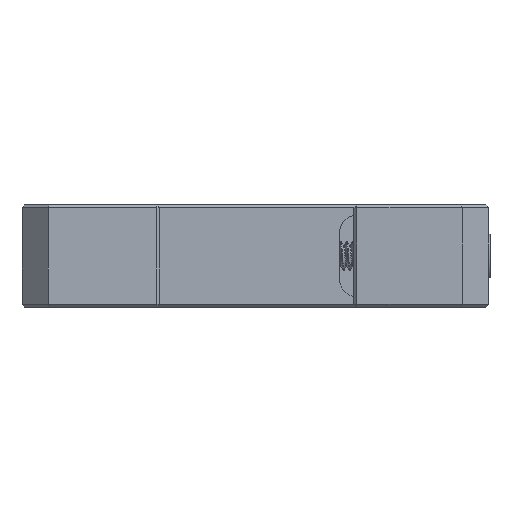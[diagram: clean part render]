
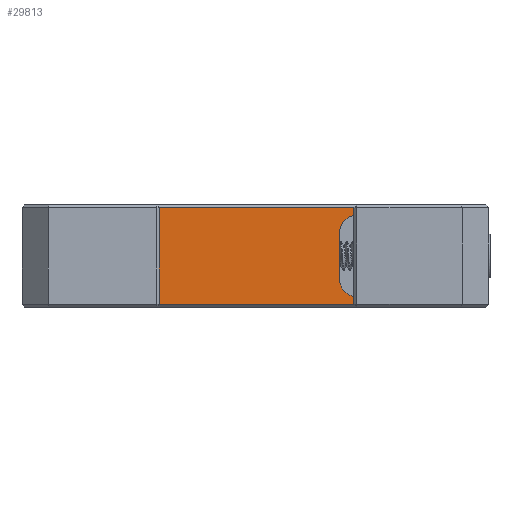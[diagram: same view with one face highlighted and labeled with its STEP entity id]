
A CAD part, front view. The second image highlights one B-rep face of the part: STEP entity #29813.
In plain terms, the highlighted planar face has unit normal (0, -1, 0).
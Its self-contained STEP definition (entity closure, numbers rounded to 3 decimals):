
#18741=DIRECTION('',(1.,0.,0.));
#18742=VECTOR('',#18741,29.845);
#18743=CARTESIAN_POINT('',(-23.973,-16.804,
16.128));
#18744=LINE('',#18743,#18742);
#18753=DIRECTION('',(0.,0.,1.));
#18754=VECTOR('',#18753,8.382);
#18755=CARTESIAN_POINT('',(-23.973,-16.804,
7.746));
#18756=LINE('',#18755,#18754);
#18757=DIRECTION('',(0.,0.,1.));
#18758=VECTOR('',#18757,1.842);
#18759=CARTESIAN_POINT('',(5.872,-16.804,
14.287));
#18760=LINE('',#18759,#18758);
#18761=CARTESIAN_POINT('',(-5.551,-16.804,
13.919));
#18762=DIRECTION('',(0.,1.,0.));
#18763=DIRECTION('',(0.,0.,1.));
#18764=AXIS2_PLACEMENT_3D('',#18761,#18762,#18763);
#18766=CARTESIAN_POINT('',(-5.551,-16.804,
13.919));
#18767=DIRECTION('',(0.,1.,0.));
#18768=DIRECTION('',(-1.,0.,0.));
#18769=AXIS2_PLACEMENT_3D('',#18766,#18767,#18768);
#18771=CARTESIAN_POINT('',(-5.551,-16.804,
9.956));
#18772=DIRECTION('',(0.,1.,0.));
#18773=DIRECTION('',(0.,0.,-1.));
#18774=AXIS2_PLACEMENT_3D('',#18771,#18772,#18773);
#18776=CARTESIAN_POINT('',(-5.551,-16.804,
9.956));
#18777=DIRECTION('',(0.,1.,0.));
#18778=DIRECTION('',(0.973,0.,-0.232));
#18779=AXIS2_PLACEMENT_3D('',#18776,#18777,#18778);
#18781=DIRECTION('',(-1.,0.,0.));
#18782=VECTOR('',#18781,9.879);
#18783=CARTESIAN_POINT('',(5.872,-16.804,
9.588));
#18784=LINE('',#18783,#18782);
#18785=DIRECTION('',(0.,0.,1.));
#18786=VECTOR('',#18785,1.842);
#18787=CARTESIAN_POINT('',(5.872,-16.804,
7.746));
#18788=LINE('',#18787,#18786);
#23192=DIRECTION('',(-1.,0.,0.));
#23193=VECTOR('',#23192,29.845);
#23194=CARTESIAN_POINT('',(5.872,-16.804,
7.746));
#23195=LINE('',#23194,#23193);
#25852=DIRECTION('',(0.,0.,-1.));
#25853=VECTOR('',#25852,3.962);
#25854=CARTESIAN_POINT('',(-7.138,-16.804,
13.919));
#25855=LINE('',#25854,#25853);
#25922=DIRECTION('',(-1.,0.,0.));
#25923=VECTOR('',#25922,9.879);
#25924=CARTESIAN_POINT('',(5.872,-16.804,
14.287));
#25925=LINE('',#25924,#25923);
#28729=CARTESIAN_POINT('',(-4.006,-16.804,
9.588));
#28730=CARTESIAN_POINT('',(-5.551,-16.804,
8.369));
#28731=VERTEX_POINT('',#28729);
#28732=VERTEX_POINT('',#28730);
#28757=CARTESIAN_POINT('',(-5.551,-16.804,
15.506));
#28758=CARTESIAN_POINT('',(-4.006,-16.804,
14.287));
#28759=VERTEX_POINT('',#28757);
#28760=VERTEX_POINT('',#28758);
#28761=CARTESIAN_POINT('',(-7.138,-16.804,
13.919));
#28762=VERTEX_POINT('',#28761);
#28823=CARTESIAN_POINT('',(5.872,-16.804,
7.746));
#28824=VERTEX_POINT('',#28823);
#28825=CARTESIAN_POINT('',(5.872,-16.804,
14.287));
#28827=VERTEX_POINT('',#28825);
#28829=CARTESIAN_POINT('',(-23.973,-16.804,
16.128));
#28830=VERTEX_POINT('',#28829);
#28835=CARTESIAN_POINT('',(-23.973,-16.804,
7.746));
#28837=VERTEX_POINT('',#28835);
#28859=CARTESIAN_POINT('',(-7.138,-16.804,
9.956));
#28860=VERTEX_POINT('',#28859);
#28861=CARTESIAN_POINT('',(5.872,-16.804,
16.128));
#28862=VERTEX_POINT('',#28861);
#28875=CARTESIAN_POINT('',(5.872,-16.804,
9.588));
#28876=VERTEX_POINT('',#28875);
#29784=CARTESIAN_POINT('',(-23.973,-16.804,
16.382));
#29785=DIRECTION('',(0.,1.,0.));
#29786=DIRECTION('',(0.,0.,1.));
#29787=AXIS2_PLACEMENT_3D('',#29784,#29785,#29786);
#29788=PLANE('',#29787);
#29790=ORIENTED_EDGE('',*,*,#29789,.F.);
#29792=ORIENTED_EDGE('',*,*,#29791,.T.);
#29794=ORIENTED_EDGE('',*,*,#29793,.F.);
#29796=ORIENTED_EDGE('',*,*,#29795,.F.);
#29798=ORIENTED_EDGE('',*,*,#29797,.T.);
#29800=ORIENTED_EDGE('',*,*,#29799,.F.);
#29802=ORIENTED_EDGE('',*,*,#29801,.F.);
#29804=ORIENTED_EDGE('',*,*,#29803,.F.);
#29806=ORIENTED_EDGE('',*,*,#29805,.F.);
#29808=ORIENTED_EDGE('',*,*,#29807,.T.);
#29809=ORIENTED_EDGE('',*,*,#29774,.T.);
#29810=ORIENTED_EDGE('',*,*,#29751,.T.);
#29811=EDGE_LOOP('',(#29790,#29792,#29794,#29796,#29798,#29800,#29802,#29804,
#29806,#29808,#29809,#29810));
#29812=FACE_OUTER_BOUND('',#29811,.F.);
#29813=ADVANCED_FACE('',(#29812),#29788,.F.);
#18765=CIRCLE('',#18764,1.588);
#18770=CIRCLE('',#18769,1.588);
#18775=CIRCLE('',#18774,1.588);
#18780=CIRCLE('',#18779,1.588);
#29751=EDGE_CURVE('',#28830,#28862,#18744,.T.);
#29774=EDGE_CURVE('',#28837,#28830,#18756,.T.);
#29789=EDGE_CURVE('',#28827,#28862,#18760,.T.);
#29791=EDGE_CURVE('',#28827,#28760,#25925,.T.);
#29793=EDGE_CURVE('',#28759,#28760,#18765,.T.);
#29795=EDGE_CURVE('',#28762,#28759,#18770,.T.);
#29797=EDGE_CURVE('',#28762,#28860,#25855,.T.);
#29799=EDGE_CURVE('',#28732,#28860,#18775,.T.);
#29801=EDGE_CURVE('',#28731,#28732,#18780,.T.);
#29803=EDGE_CURVE('',#28876,#28731,#18784,.T.);
#29805=EDGE_CURVE('',#28824,#28876,#18788,.T.);
#29807=EDGE_CURVE('',#28824,#28837,#23195,.T.);
